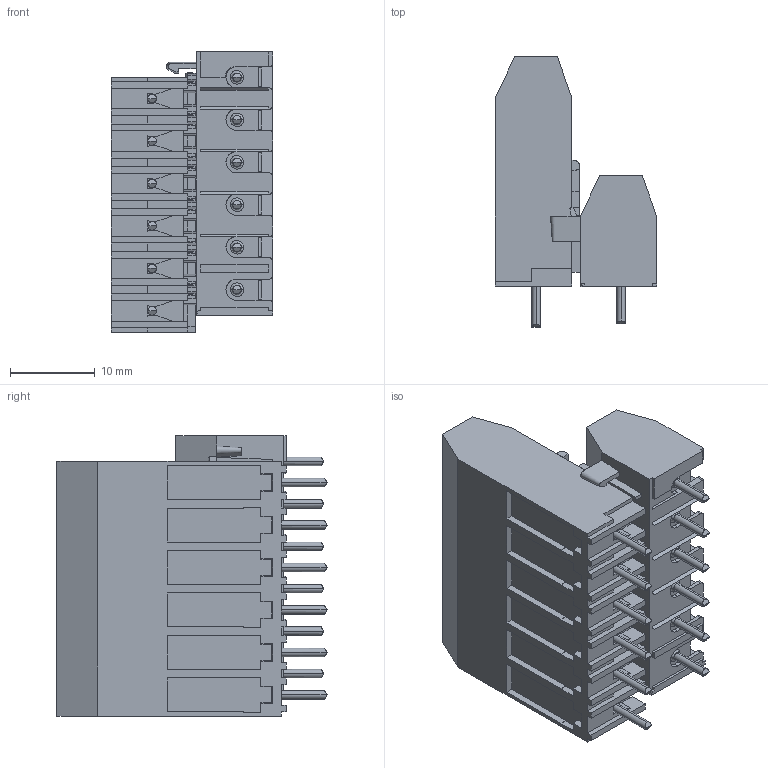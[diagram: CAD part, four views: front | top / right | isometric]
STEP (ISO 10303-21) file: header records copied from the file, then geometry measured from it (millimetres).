
FILE_DESCRIPTION (( 'STEP AP214' ), '1' );
FILE_NAME ('970-ENO-DS-12.STEP', '2009-02-27T17:10:30', ( 'weco' ), ( 'weco' ), 'SwSTEP 2.0', 'SolidWorks 2007', '' );
FILE_SCHEMA (( 'AUTOMOTIVE_DESIGN' ));
Length unit declared in the file: millimetre
Products named in the file (1): 970-ENO-DS-12
Bounding box: 19 x 31.8 x 33 mm (x, y, z)
Volume: 9119.2 mm3; surface area: 7087.9 mm2
Topology: 1 solids, 1 shells, 1748 faces, 5219 edges, 3383 vertices
Faces by surface type: plane 1380, cylinder 271, cone 72, bspline 25
Entity records: 63439 total; most frequent: CARTESIAN_POINT 19537, ORIENTED_EDGE 10438, DIRECTION 7152, EDGE_CURVE 5219, LINE 3476, VECTOR 3476, VERTEX_POINT 3383, EDGE_LOOP 1866
